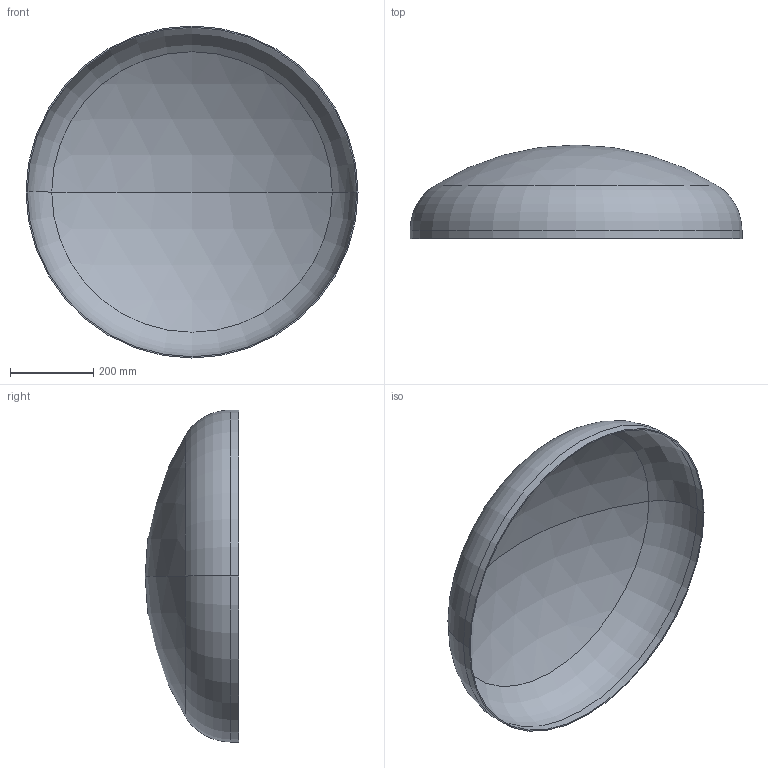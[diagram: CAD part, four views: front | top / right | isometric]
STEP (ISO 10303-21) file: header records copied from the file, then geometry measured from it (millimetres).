
FILE_DESCRIPTION (( 'STEP AP203' ), '1' );
FILE_NAME ('DIN 28013 Korbbogenform_-_Boden DIN 28013 - 800 x 20 - I - s=3.step', '2016-07-01T08:11:30', ( '' ), ( '' ), 'SwSTEP 2.0', 'SolidWorks 2013', '' );
FILE_SCHEMA (( 'CONFIG_CONTROL_DESIGN' ));
Length unit declared in the file: millimetre
Products named in the file (1): DIN 28013 Korbbogenform_-_Boden DIN 28013 - 800 x 20 - I - s=3
Bounding box: 800 x 225.69 x 800 mm (x, y, z)
Volume: 2234434.7 mm3; surface area: 1497153 mm2
Topology: 1 solids, 1 shells, 13 faces, 24 edges, 14 vertices
Faces by surface type: torus 4, cylinder 4, sphere 4, plane 1
Entity records: 407 total; most frequent: DIRECTION 72, CARTESIAN_POINT 52, ORIENTED_EDGE 48, AXIS2_PLACEMENT_3D 34, EDGE_CURVE 24, CIRCLE 20, VERTEX_POINT 14, EDGE_LOOP 14
